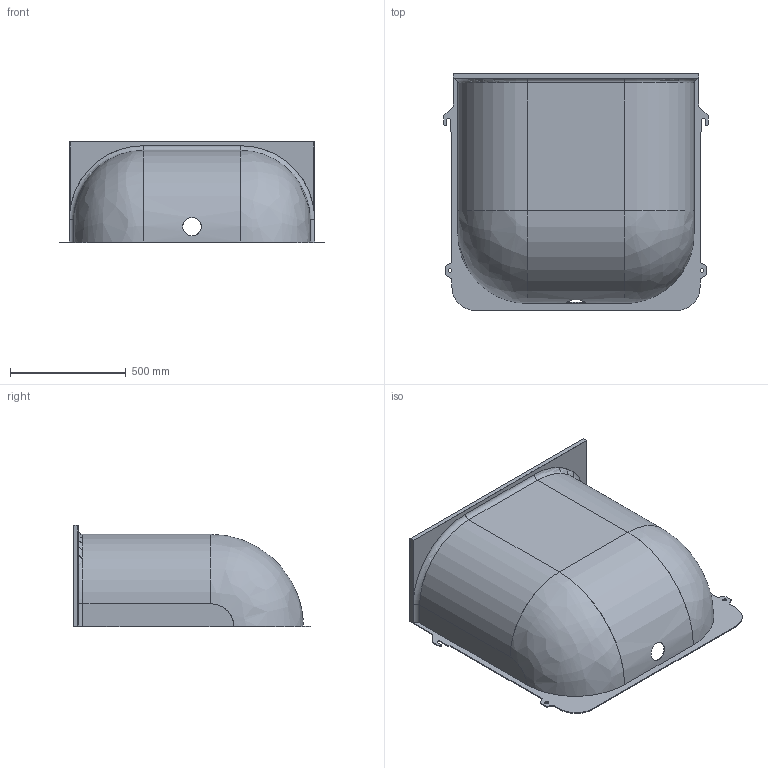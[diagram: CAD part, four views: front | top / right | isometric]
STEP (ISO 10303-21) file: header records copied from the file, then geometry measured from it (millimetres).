
FILE_DESCRIPTION(/* description */ (''),/* implementation_level */ '2;1');
FILE_NAME(/* name */ 'Q:\sge-bs-neu-2008\Marketing\CAD Zeichnungen\3D-CAD-Daten\3D Daten Website\- MEA Multinorm Kunststofflichtschacht\Step\Multinorm_100x100x40.stp',/* time_stamp */ '2019-02-14T10:59:55+01:00',/* author */ ('avgrahammj'),/* organization */ (''),/* preprocessor_version */ 'ST-DEVELOPER v16.1',/* originating_system */ 'Autodesk Inventor 2016',/* authorisation */ '');
FILE_SCHEMA (('AUTOMOTIVE_DESIGN { 1 0 10303 214 3 1 1 }'));
Length unit declared in the file: millimetre
Products named in the file (1): Multinorm_100x100x40
Bounding box: 1142 x 1022 x 440 mm (x, y, z)
Volume: 7317711.8 mm3; surface area: 3681805.7 mm2
Topology: 1 solids, 1 shells, 71 faces, 195 edges, 126 vertices
Faces by surface type: plane 40, cylinder 23, torus 4, bspline 4
Full cylindrical faces by diameter (mm): 16 x2, 80 x1
Entity records: 2488 total; most frequent: CARTESIAN_POINT 642, ORIENTED_EDGE 384, DIRECTION 374, EDGE_CURVE 192, LINE 130, VECTOR 130, VERTEX_POINT 126, AXIS2_PLACEMENT_3D 122
